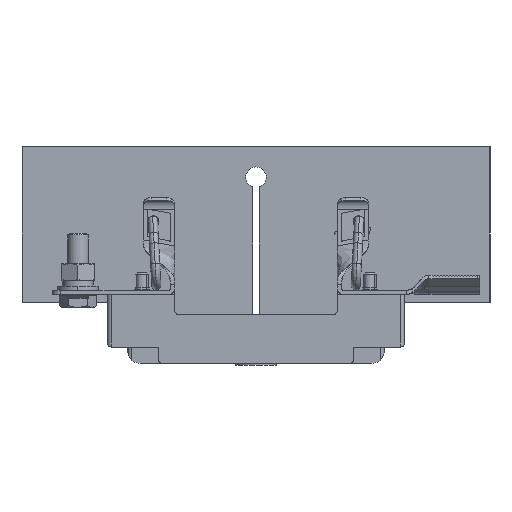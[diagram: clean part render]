
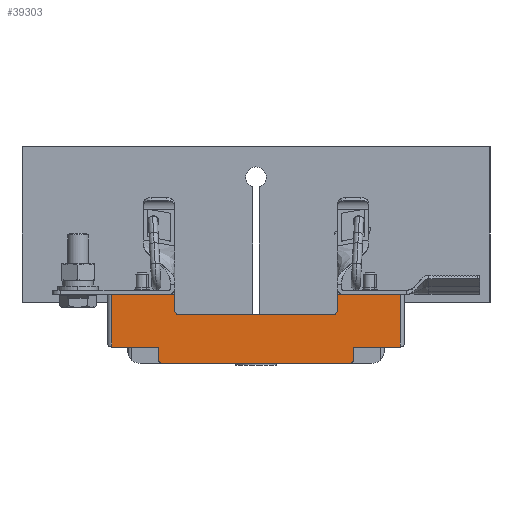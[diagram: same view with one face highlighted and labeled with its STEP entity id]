
A CAD part, left-side view. The second image highlights one B-rep face of the part: STEP entity #39303.
In plain terms, the highlighted planar face has unit normal (-1, 0, 0).
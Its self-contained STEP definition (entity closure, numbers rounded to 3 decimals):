
#1955 = VECTOR ( 'NONE', #78980, 1000. ) ;
#2587 = LINE ( 'NONE', #43662, #81794 ) ;
#2625 = ORIENTED_EDGE ( 'NONE', *, *, #58668, .T. ) ;
#2714 = EDGE_CURVE ( 'NONE', #28185, #80951, #55622, .T. ) ;
#3249 = VERTEX_POINT ( 'NONE', #23628 ) ;
#3557 = LINE ( 'NONE', #76080, #85955 ) ;
#4702 = CARTESIAN_POINT ( 'NONE',  ( -79., -48., 8. ) ) ;
#5680 = VERTEX_POINT ( 'NONE', #79603 ) ;
#6219 = DIRECTION ( 'NONE',  ( 0., 1., 0. ) ) ;
#6454 = VECTOR ( 'NONE', #62581, 1000. ) ;
#7866 = CARTESIAN_POINT ( 'NONE',  ( -79., 48., 8. ) ) ;
#7910 = ORIENTED_EDGE ( 'NONE', *, *, #24297, .T. ) ;
#8912 = ORIENTED_EDGE ( 'NONE', *, *, #68004, .T. ) ;
#9143 = CARTESIAN_POINT ( 'NONE',  ( -79., -46., 2. ) ) ;
#9200 = DIRECTION ( 'NONE',  ( 0., 0.61, 0.793 ) ) ;
#10833 = CARTESIAN_POINT ( 'NONE',  ( -79., -63., 0. ) ) ;
#11097 = CARTESIAN_POINT ( 'NONE',  ( -79., -73., 8. ) ) ;
#12040 = CARTESIAN_POINT ( 'NONE',  ( -79., -38.846, 24. ) ) ;
#12496 = AXIS2_PLACEMENT_3D ( 'NONE', #78747, #78149, #70936 ) ;
#13029 = LINE ( 'NONE', #60284, #82547 ) ;
#18297 = CIRCLE ( 'NONE', #48550, 2. ) ;
#18933 = CARTESIAN_POINT ( 'NONE',  ( -79., -48., 2. ) ) ;
#19517 = CARTESIAN_POINT ( 'NONE',  ( -79., 40., 34. ) ) ;
#20177 = DIRECTION ( 'NONE',  ( 0., 0., 1. ) ) ;
#21342 = CARTESIAN_POINT ( 'NONE',  ( -79., -40., 34. ) ) ;
#22300 = LINE ( 'NONE', #11097, #24463 ) ;
#22904 = DIRECTION ( 'NONE',  ( -1., 0., 0. ) ) ;
#23628 = CARTESIAN_POINT ( 'NONE',  ( -79., -71., 8. ) ) ;
#24297 = EDGE_CURVE ( 'NONE', #78863, #30797, #25010, .T. ) ;
#24463 = VECTOR ( 'NONE', #79894, 1000. ) ;
#25010 = LINE ( 'NONE', #61226, #60253 ) ;
#25112 = VERTEX_POINT ( 'NONE', #21342 ) ;
#25138 = CARTESIAN_POINT ( 'NONE',  ( -79., 59., 34. ) ) ;
#26029 = ORIENTED_EDGE ( 'NONE', *, *, #64899, .T. ) ;
#26361 = VECTOR ( 'NONE', #41088, 1000. ) ;
#26896 = EDGE_CURVE ( 'NONE', #79729, #80951, #39188, .T. ) ;
#28185 = VERTEX_POINT ( 'NONE', #33759 ) ;
#29605 = CARTESIAN_POINT ( 'NONE',  ( -79., 71., 34. ) ) ;
#29955 = VECTOR ( 'NONE', #38668, 1000. ) ;
#30067 = ORIENTED_EDGE ( 'NONE', *, *, #35421, .T. ) ;
#30274 = PLANE ( 'NONE',  #12496 ) ;
#30292 = EDGE_LOOP ( 'NONE', ( #31937, #55112, #77206, #35368, #60419, #8912, #26029, #49973, #7910, #2625, #48350, #85486, #32749, #38385, #30067, #73567 ) ) ;
#30797 = VERTEX_POINT ( 'NONE', #87425 ) ;
#31145 = EDGE_CURVE ( 'NONE', #63592, #85241, #72590, .T. ) ;
#31329 = DIRECTION ( 'NONE',  ( 0., 0., 1. ) ) ;
#31937 = ORIENTED_EDGE ( 'NONE', *, *, #2714, .F. ) ;
#32749 = ORIENTED_EDGE ( 'NONE', *, *, #39735, .T. ) ;
#33236 = VECTOR ( 'NONE', #53305, 1000. ) ;
#33240 = CARTESIAN_POINT ( 'NONE',  ( -79., 48., 2. ) ) ;
#33759 = CARTESIAN_POINT ( 'NONE',  ( -79., -46., 0. ) ) ;
#35078 = DIRECTION ( 'NONE',  ( 0., 0., -1. ) ) ;
#35368 = ORIENTED_EDGE ( 'NONE', *, *, #39474, .T. ) ;
#35421 = EDGE_CURVE ( 'NONE', #40710, #79729, #2587, .T. ) ;
#36261 = LINE ( 'NONE', #36429, #44875 ) ;
#36429 = CARTESIAN_POINT ( 'NONE',  ( -79., 40., 25.5 ) ) ;
#37177 = EDGE_CURVE ( 'NONE', #28185, #73909, #18297, .T. ) ;
#38385 = ORIENTED_EDGE ( 'NONE', *, *, #46244, .T. ) ;
#38386 = CARTESIAN_POINT ( 'NONE',  ( -79., 71., 8. ) ) ;
#38668 = DIRECTION ( 'NONE',  ( 0., 1., 0. ) ) ;
#39188 = CIRCLE ( 'NONE', #68419, 2. ) ;
#39303 = ADVANCED_FACE ( 'NONE', ( #64083 ), #30274, .F. ) ;
#39474 = EDGE_CURVE ( 'NONE', #82240, #3249, #22300, .T. ) ;
#39735 = EDGE_CURVE ( 'NONE', #85241, #84811, #85499, .T. ) ;
#40306 = LINE ( 'NONE', #55407, #26361 ) ;
#40710 = VERTEX_POINT ( 'NONE', #57707 ) ;
#41088 = DIRECTION ( 'NONE',  ( 0., 1., 0. ) ) ;
#43339 = LINE ( 'NONE', #72019, #48629 ) ;
#43662 = CARTESIAN_POINT ( 'NONE',  ( -79., 48., 0. ) ) ;
#44875 = VECTOR ( 'NONE', #9200, 1000. ) ;
#45915 = EDGE_CURVE ( 'NONE', #5680, #63592, #84669, .T. ) ;
#46063 = LINE ( 'NONE', #7866, #6454 ) ;
#46244 = EDGE_CURVE ( 'NONE', #84811, #40710, #46063, .T. ) ;
#47098 = CARTESIAN_POINT ( 'NONE',  ( -79., 40., 25.5 ) ) ;
#47491 = CARTESIAN_POINT ( 'NONE',  ( -79., -38.846, 24. ) ) ;
#48253 = VECTOR ( 'NONE', #52802, 1000. ) ;
#48350 = ORIENTED_EDGE ( 'NONE', *, *, #45915, .T. ) ;
#48550 = AXIS2_PLACEMENT_3D ( 'NONE', #9143, #48935, #57002 ) ;
#48629 = VECTOR ( 'NONE', #31329, 1000. ) ;
#48771 = CARTESIAN_POINT ( 'NONE',  ( -79., -40., 25.5 ) ) ;
#48935 = DIRECTION ( 'NONE',  ( -1., 0., 0. ) ) ;
#49342 = DIRECTION ( 'NONE',  ( 0., 0., -1. ) ) ;
#49973 = ORIENTED_EDGE ( 'NONE', *, *, #79743, .T. ) ;
#49982 = EDGE_CURVE ( 'NONE', #3249, #82267, #43339, .T. ) ;
#52802 = DIRECTION ( 'NONE',  ( 0., 0., 1. ) ) ;
#53305 = DIRECTION ( 'NONE',  ( 0., 0.61, -0.793 ) ) ;
#55112 = ORIENTED_EDGE ( 'NONE', *, *, #37177, .T. ) ;
#55407 = CARTESIAN_POINT ( 'NONE',  ( -79., 59., 34. ) ) ;
#55622 = LINE ( 'NONE', #10833, #29955 ) ;
#57002 = DIRECTION ( 'NONE',  ( 0., 0., -1. ) ) ;
#57707 = CARTESIAN_POINT ( 'NONE',  ( -79., 48., 8. ) ) ;
#58668 = EDGE_CURVE ( 'NONE', #30797, #5680, #36261, .T. ) ;
#59098 = DIRECTION ( 'NONE',  ( 0., 0., -1. ) ) ;
#60253 = VECTOR ( 'NONE', #6219, 1000. ) ;
#60284 = CARTESIAN_POINT ( 'NONE',  ( -79., -48., 0. ) ) ;
#60419 = ORIENTED_EDGE ( 'NONE', *, *, #49982, .T. ) ;
#60588 = CARTESIAN_POINT ( 'NONE',  ( -79., -71., 34. ) ) ;
#61226 = CARTESIAN_POINT ( 'NONE',  ( -79., -38.846, 24. ) ) ;
#62581 = DIRECTION ( 'NONE',  ( 0., -1., 0. ) ) ;
#63234 = DIRECTION ( 'NONE',  ( 0., 0., -1. ) ) ;
#63592 = VERTEX_POINT ( 'NONE', #19517 ) ;
#64083 = FACE_OUTER_BOUND ( 'NONE', #30292, .T. ) ;
#64899 = EDGE_CURVE ( 'NONE', #25112, #85005, #3557, .T. ) ;
#66478 = LINE ( 'NONE', #12040, #33236 ) ;
#68004 = EDGE_CURVE ( 'NONE', #82267, #25112, #40306, .T. ) ;
#68322 = CARTESIAN_POINT ( 'NONE',  ( -79., 46., 0. ) ) ;
#68419 = AXIS2_PLACEMENT_3D ( 'NONE', #84818, #22904, #63234 ) ;
#70936 = DIRECTION ( 'NONE',  ( 0., 0., -1. ) ) ;
#72019 = CARTESIAN_POINT ( 'NONE',  ( -79., -71., 34. ) ) ;
#72590 = LINE ( 'NONE', #25138, #1955 ) ;
#73567 = ORIENTED_EDGE ( 'NONE', *, *, #26896, .T. ) ;
#73909 = VERTEX_POINT ( 'NONE', #18933 ) ;
#76080 = CARTESIAN_POINT ( 'NONE',  ( -79., -40., 25.5 ) ) ;
#77206 = ORIENTED_EDGE ( 'NONE', *, *, #77516, .T. ) ;
#77516 = EDGE_CURVE ( 'NONE', #73909, #82240, #13029, .T. ) ;
#78149 = DIRECTION ( 'NONE',  ( 1., 0., 0. ) ) ;
#78747 = CARTESIAN_POINT ( 'NONE',  ( -79., 59., 6. ) ) ;
#78863 = VERTEX_POINT ( 'NONE', #47491 ) ;
#78980 = DIRECTION ( 'NONE',  ( 0., 1., 0. ) ) ;
#79603 = CARTESIAN_POINT ( 'NONE',  ( -79., 40., 25.5 ) ) ;
#79729 = VERTEX_POINT ( 'NONE', #33240 ) ;
#79743 = EDGE_CURVE ( 'NONE', #85005, #78863, #66478, .T. ) ;
#79894 = DIRECTION ( 'NONE',  ( 0., -1., 0. ) ) ;
#80951 = VERTEX_POINT ( 'NONE', #68322 ) ;
#81794 = VECTOR ( 'NONE', #49342, 1000. ) ;
#82193 = VECTOR ( 'NONE', #59098, 1000. ) ;
#82240 = VERTEX_POINT ( 'NONE', #4702 ) ;
#82267 = VERTEX_POINT ( 'NONE', #60588 ) ;
#82547 = VECTOR ( 'NONE', #20177, 1000. ) ;
#84669 = LINE ( 'NONE', #47098, #48253 ) ;
#84811 = VERTEX_POINT ( 'NONE', #38386 ) ;
#84818 = CARTESIAN_POINT ( 'NONE',  ( -79., 46., 2. ) ) ;
#85005 = VERTEX_POINT ( 'NONE', #48771 ) ;
#85241 = VERTEX_POINT ( 'NONE', #29605 ) ;
#85486 = ORIENTED_EDGE ( 'NONE', *, *, #31145, .T. ) ;
#85499 = LINE ( 'NONE', #86313, #82193 ) ;
#85955 = VECTOR ( 'NONE', #35078, 1000. ) ;
#86313 = CARTESIAN_POINT ( 'NONE',  ( -79., 71., 8. ) ) ;
#87425 = CARTESIAN_POINT ( 'NONE',  ( -79., 38.846, 24. ) ) ;
